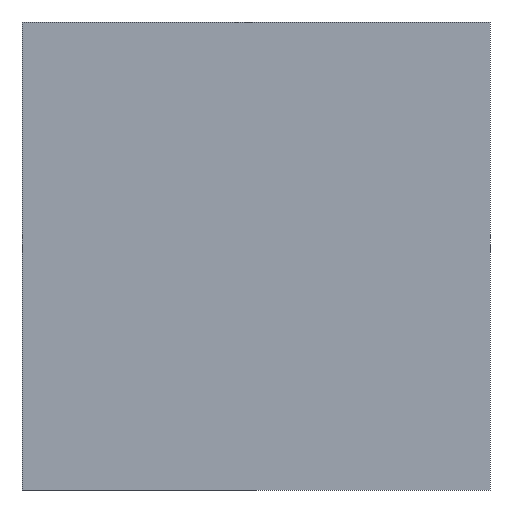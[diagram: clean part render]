
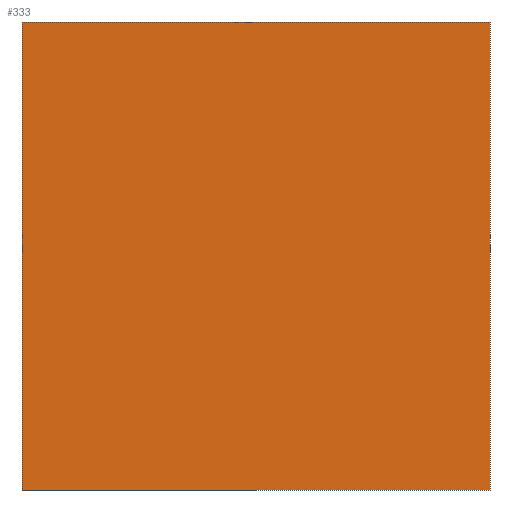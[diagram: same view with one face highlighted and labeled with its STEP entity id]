
A CAD part, front view. The second image highlights one B-rep face of the part: STEP entity #333.
In plain terms, the highlighted planar face has unit normal (0, -1, 0).
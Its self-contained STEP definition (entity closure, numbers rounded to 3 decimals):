
#12 = EDGE_CURVE ( 'NONE', #521, #917, #596, .T. ) ;
#13 = AXIS2_PLACEMENT_3D ( 'NONE', #881, #1422, #432 ) ;
#34 = EDGE_CURVE ( 'NONE', #1036, #674, #1024, .T. ) ;
#36 = VECTOR ( 'NONE', #1143, 1000. ) ;
#91 = CARTESIAN_POINT ( 'NONE',  ( -900., 0., 0. ) ) ;
#219 = DIRECTION ( 'NONE',  ( 0., 0., -1. ) ) ;
#333 = ADVANCED_FACE ( 'NONE', ( #644 ), #1083, .T. ) ;
#335 = LINE ( 'NONE', #871, #642 ) ;
#432 = DIRECTION ( 'NONE',  ( 1., 0., 0. ) ) ;
#487 = ORIENTED_EDGE ( 'NONE', *, *, #1351, .F. ) ;
#521 = VERTEX_POINT ( 'NONE', #950 ) ;
#596 = LINE ( 'NONE', #1281, #36 ) ;
#642 = VECTOR ( 'NONE', #219, 1000. ) ;
#644 = FACE_OUTER_BOUND ( 'NONE', #866, .T. ) ;
#673 = LINE ( 'NONE', #892, #1264 ) ;
#674 = VERTEX_POINT ( 'NONE', #91 ) ;
#728 = DIRECTION ( 'NONE',  ( -1., 0., 0. ) ) ;
#820 = ORIENTED_EDGE ( 'NONE', *, *, #1347, .T. ) ;
#837 = CARTESIAN_POINT ( 'NONE',  ( 0., 0., 0. ) ) ;
#866 = EDGE_LOOP ( 'NONE', ( #946, #487, #1259, #820 ) ) ;
#871 = CARTESIAN_POINT ( 'NONE',  ( 0., 0., 900. ) ) ;
#881 = CARTESIAN_POINT ( 'NONE',  ( 0., 0., 900. ) ) ;
#892 = CARTESIAN_POINT ( 'NONE',  ( -900., 0., 900. ) ) ;
#898 = VECTOR ( 'NONE', #728, 1000. ) ;
#917 = VERTEX_POINT ( 'NONE', #1318 ) ;
#946 = ORIENTED_EDGE ( 'NONE', *, *, #34, .F. ) ;
#950 = CARTESIAN_POINT ( 'NONE',  ( 0., 0., 900. ) ) ;
#1024 = LINE ( 'NONE', #1399, #898 ) ;
#1036 = VERTEX_POINT ( 'NONE', #837 ) ;
#1083 = PLANE ( 'NONE',  #13 ) ;
#1116 = DIRECTION ( 'NONE',  ( 0., 0., -1. ) ) ;
#1143 = DIRECTION ( 'NONE',  ( -1., 0., 0. ) ) ;
#1259 = ORIENTED_EDGE ( 'NONE', *, *, #12, .T. ) ;
#1264 = VECTOR ( 'NONE', #1116, 1000. ) ;
#1281 = CARTESIAN_POINT ( 'NONE',  ( 0., 0., 900. ) ) ;
#1318 = CARTESIAN_POINT ( 'NONE',  ( -900., 0., 900. ) ) ;
#1347 = EDGE_CURVE ( 'NONE', #917, #674, #673, .T. ) ;
#1351 = EDGE_CURVE ( 'NONE', #521, #1036, #335, .T. ) ;
#1399 = CARTESIAN_POINT ( 'NONE',  ( 0., 0., 0. ) ) ;
#1422 = DIRECTION ( 'NONE',  ( 0., -1., 0. ) ) ;
